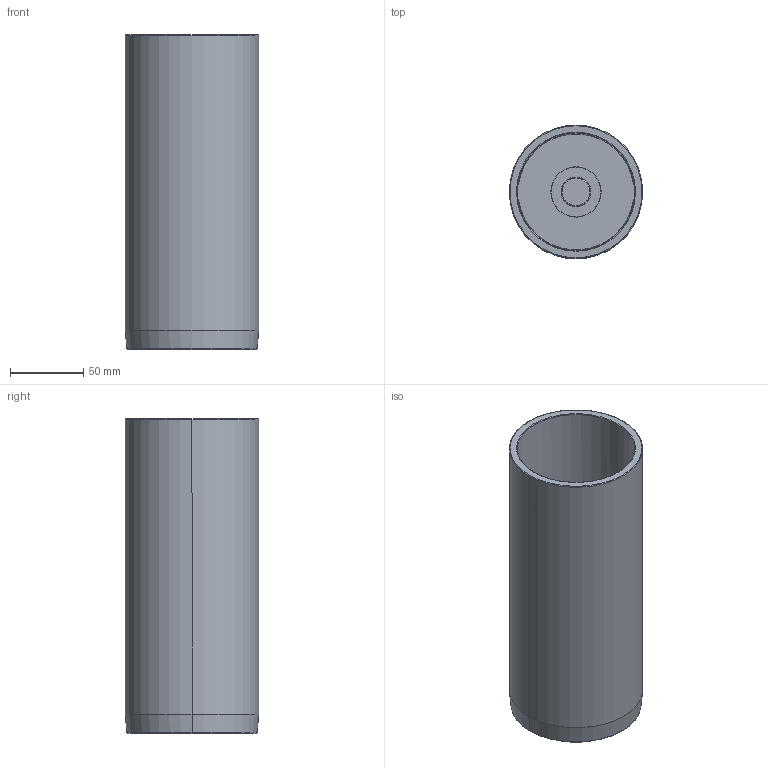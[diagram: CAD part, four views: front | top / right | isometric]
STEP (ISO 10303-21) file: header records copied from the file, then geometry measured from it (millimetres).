
FILE_DESCRIPTION((''),'2;1');
FILE_NAME('C12_080_215.stp','2009-01-29T09:38:11',(''),(''),'Mechanical Desktop 2009','Mechanical Desktop 2009',', , ');
FILE_SCHEMA(('CONFIG_CONTROL_DESIGN'));
Length unit declared in the file: millimetre
Products named in the file (2): Product; blmdl1
Assembly tree (1 placements, depth 2):
  Product
    blmdl1
Bounding box: 91.25 x 91.25 x 215 mm (x, y, z)
Volume: 342486.2 mm3; surface area: 140322.2 mm2
Topology: 5 solids, 5 shells, 79 faces, 200 edges, 134 vertices
Faces by surface type: cylinder 34, plane 29, torus 10, cone 6
Entity records: 2585 total; most frequent: DIRECTION 480, CARTESIAN_POINT 435, ORIENTED_EDGE 400, AXIS2_PLACEMENT_3D 203, EDGE_CURVE 200, VERTEX_POINT 134, CIRCLE 122, EDGE_LOOP 92
